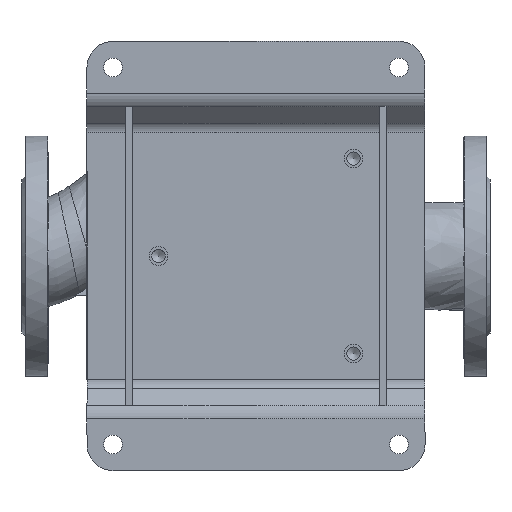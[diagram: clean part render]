
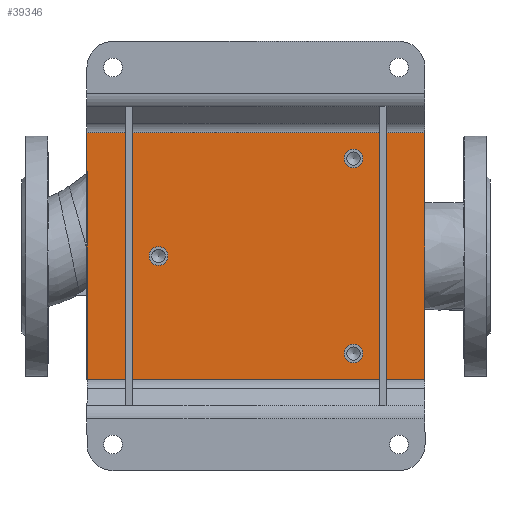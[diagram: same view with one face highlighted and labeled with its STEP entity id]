
A CAD part, top view. The second image highlights one B-rep face of the part: STEP entity #39346.
In plain terms, the highlighted planar face has unit normal (0, 0, 1) as drawn and (0, -1, 0) by its records, which use the part's own axes.
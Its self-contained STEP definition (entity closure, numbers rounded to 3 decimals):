
#295 = CARTESIAN_POINT ( 'NONE',  ( -95., -5., -130. ) ) ;
#489 = VERTEX_POINT ( 'NONE', #15985 ) ;
#544 = DIRECTION ( 'NONE',  ( 0., -1., 0. ) ) ;
#1334 = EDGE_CURVE ( 'NONE', #32739, #489, #21469, .T. ) ;
#3273 = CARTESIAN_POINT ( 'NONE',  ( -75., -5., 75. ) ) ;
#3941 = CIRCLE ( 'NONE', #23385, 7.25 ) ;
#4756 = DIRECTION ( 'NONE',  ( -1., 0., 0. ) ) ;
#4773 = ORIENTED_EDGE ( 'NONE', *, *, #1334, .F. ) ;
#4894 = DIRECTION ( 'NONE',  ( 1., 0., 0. ) ) ;
#5532 = EDGE_LOOP ( 'NONE', ( #4773, #25742, #26465, #27960 ) ) ;
#7741 = VECTOR ( 'NONE', #17976, 1000. ) ;
#8296 = ORIENTED_EDGE ( 'NONE', *, *, #35275, .F. ) ;
#8482 = CARTESIAN_POINT ( 'NONE',  ( -95., -5., -130. ) ) ;
#9198 = AXIS2_PLACEMENT_3D ( 'NONE', #3273, #45850, #46073 ) ;
#9255 = CARTESIAN_POINT ( 'NONE',  ( -75., -5., 67.75 ) ) ;
#9550 = VECTOR ( 'NONE', #4756, 1000. ) ;
#9828 = CIRCLE ( 'NONE', #35990, 7.25 ) ;
#9938 = VERTEX_POINT ( 'NONE', #9255 ) ;
#11223 = DIRECTION ( 'NONE',  ( 0., -1., 0. ) ) ;
#12202 = FACE_OUTER_BOUND ( 'NONE', #5532, .T. ) ;
#12659 = DIRECTION ( 'NONE',  ( 0., 0., -1. ) ) ;
#14409 = VECTOR ( 'NONE', #27195, 1000. ) ;
#15616 = EDGE_CURVE ( 'NONE', #40775, #40775, #3941, .T. ) ;
#15874 = LINE ( 'NONE', #30161, #22727 ) ;
#15985 = CARTESIAN_POINT ( 'NONE',  ( 95., -5., -130. ) ) ;
#17976 = DIRECTION ( 'NONE',  ( 0., 0., -1. ) ) ;
#18820 = ORIENTED_EDGE ( 'NONE', *, *, #39666, .F. ) ;
#18852 = EDGE_LOOP ( 'NONE', ( #18820 ) ) ;
#18933 = EDGE_CURVE ( 'NONE', #40464, #45461, #38174, .T. ) ;
#18957 = PLANE ( 'NONE',  #34618 ) ;
#20125 = CARTESIAN_POINT ( 'NONE',  ( -95., -5., 130. ) ) ;
#21469 = LINE ( 'NONE', #35530, #7741 ) ;
#22317 = CARTESIAN_POINT ( 'NONE',  ( 95., -5., 130. ) ) ;
#22727 = VECTOR ( 'NONE', #4894, 1000. ) ;
#23012 = ORIENTED_EDGE ( 'NONE', *, *, #15616, .F. ) ;
#23385 = AXIS2_PLACEMENT_3D ( 'NONE', #32967, #11223, #28543 ) ;
#25742 = ORIENTED_EDGE ( 'NONE', *, *, #39946, .F. ) ;
#26465 = ORIENTED_EDGE ( 'NONE', *, *, #18933, .F. ) ;
#26504 = DIRECTION ( 'NONE',  ( 0., -1., 0. ) ) ;
#27195 = DIRECTION ( 'NONE',  ( 0., 0., 1. ) ) ;
#27512 = CARTESIAN_POINT ( 'NONE',  ( 0., -5., -82.25 ) ) ;
#27960 = ORIENTED_EDGE ( 'NONE', *, *, #40644, .F. ) ;
#28543 = DIRECTION ( 'NONE',  ( 0., 0., -1. ) ) ;
#29106 = DIRECTION ( 'NONE',  ( 0., 0., -1. ) ) ;
#29524 = FACE_BOUND ( 'NONE', #33383, .T. ) ;
#29787 = LINE ( 'NONE', #8482, #9550 ) ;
#30161 = CARTESIAN_POINT ( 'NONE',  ( -95., -5., 130. ) ) ;
#30850 = EDGE_LOOP ( 'NONE', ( #23012 ) ) ;
#31966 = CARTESIAN_POINT ( 'NONE',  ( -95., -5., 130. ) ) ;
#32611 = CARTESIAN_POINT ( 'NONE',  ( 0., -5., -75. ) ) ;
#32739 = VERTEX_POINT ( 'NONE', #22317 ) ;
#32967 = CARTESIAN_POINT ( 'NONE',  ( 75., -5., 75. ) ) ;
#33383 = EDGE_LOOP ( 'NONE', ( #8296 ) ) ;
#34509 = VERTEX_POINT ( 'NONE', #27512 ) ;
#34618 = AXIS2_PLACEMENT_3D ( 'NONE', #37727, #26504, #12659 ) ;
#35275 = EDGE_CURVE ( 'NONE', #34509, #34509, #9828, .T. ) ;
#35530 = CARTESIAN_POINT ( 'NONE',  ( 95., -5., 130. ) ) ;
#35990 = AXIS2_PLACEMENT_3D ( 'NONE', #32611, #544, #29106 ) ;
#36769 = FACE_BOUND ( 'NONE', #30850, .T. ) ;
#37252 = CARTESIAN_POINT ( 'NONE',  ( 75., -5., 67.75 ) ) ;
#37727 = CARTESIAN_POINT ( 'NONE',  ( 0., -5., 0. ) ) ;
#38174 = LINE ( 'NONE', #20125, #14409 ) ;
#39346 = ADVANCED_FACE ( 'NONE', ( #36769, #29524, #44521, #12202 ), #18957, .T. ) ;
#39666 = EDGE_CURVE ( 'NONE', #9938, #9938, #45815, .T. ) ;
#39946 = EDGE_CURVE ( 'NONE', #45461, #32739, #15874, .T. ) ;
#40464 = VERTEX_POINT ( 'NONE', #295 ) ;
#40644 = EDGE_CURVE ( 'NONE', #489, #40464, #29787, .T. ) ;
#40775 = VERTEX_POINT ( 'NONE', #37252 ) ;
#44521 = FACE_BOUND ( 'NONE', #18852, .T. ) ;
#45461 = VERTEX_POINT ( 'NONE', #31966 ) ;
#45815 = CIRCLE ( 'NONE', #9198, 7.25 ) ;
#45850 = DIRECTION ( 'NONE',  ( 0., -1., 0. ) ) ;
#46073 = DIRECTION ( 'NONE',  ( 0., 0., -1. ) ) ;
